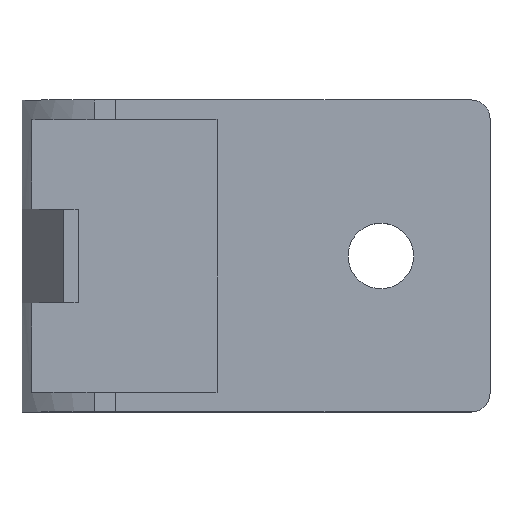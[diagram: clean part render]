
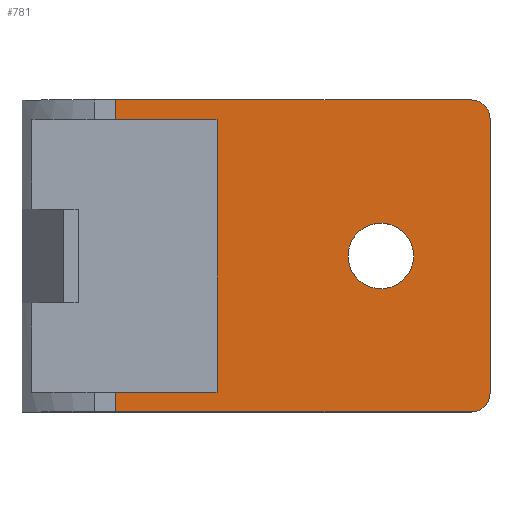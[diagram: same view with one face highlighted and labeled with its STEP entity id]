
A CAD part, top view. The second image highlights one B-rep face of the part: STEP entity #781.
In plain terms, the highlighted planar face has unit normal (0, 0, 1).
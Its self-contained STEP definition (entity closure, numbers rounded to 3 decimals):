
#12 = LINE ( 'NONE', #45, #337 ) ;
#28 = EDGE_CURVE ( 'NONE', #457, #456, #148, .T. ) ;
#45 = CARTESIAN_POINT ( 'NONE',  ( -17., 10., 0. ) ) ;
#77 = DIRECTION ( 'NONE',  ( -1., 0., 0. ) ) ;
#110 = CARTESIAN_POINT ( 'NONE',  ( -23., 8.75, 0. ) ) ;
#133 = EDGE_CURVE ( 'NONE', #467, #475, #12, .T. ) ;
#148 = LINE ( 'NONE', #110, #151 ) ;
#151 = VECTOR ( 'NONE', #77, 1000. ) ;
#204 = AXIS2_PLACEMENT_3D ( 'NONE', #367, #376, #366 ) ;
#205 = AXIS2_PLACEMENT_3D ( 'NONE', #369, #223, #222 ) ;
#207 = EDGE_CURVE ( 'NONE', #463, #469, #803, .T. ) ;
#211 = EDGE_CURVE ( 'NONE', #472, #465, #807, .T. ) ;
#222 = DIRECTION ( 'NONE',  ( -1., 0., 0. ) ) ;
#223 = DIRECTION ( 'NONE',  ( 0., 0., 1. ) ) ;
#226 = EDGE_CURVE ( 'NONE', #459, #479, #812, .T. ) ;
#227 = EDGE_CURVE ( 'NONE', #469, #472, #814, .T. ) ;
#231 = EDGE_CURVE ( 'NONE', #479, #459, #808, .T. ) ;
#237 = EDGE_CURVE ( 'NONE', #465, #456, #830, .T. ) ;
#298 = CARTESIAN_POINT ( 'NONE',  ( -23., 10., 0. ) ) ;
#307 = DIRECTION ( 'NONE',  ( 0., -1., 0. ) ) ;
#310 = DIRECTION ( 'NONE',  ( 0., 1., 0. ) ) ;
#312 = CARTESIAN_POINT ( 'NONE',  ( 7., -10., 0. ) ) ;
#313 = DIRECTION ( 'NONE',  ( -1., 0., 0. ) ) ;
#337 = VECTOR ( 'NONE', #307, 1000. ) ;
#338 = EDGE_CURVE ( 'NONE', #467, #464, #824, .T. ) ;
#350 = EDGE_CURVE ( 'NONE', #475, #478, #856, .T. ) ;
#356 = EDGE_CURVE ( 'NONE', #478, #463, #867, .T. ) ;
#357 = EDGE_CURVE ( 'NONE', #464, #457, #869, .T. ) ;
#366 = DIRECTION ( 'NONE',  ( 1., 0., 0. ) ) ;
#367 = CARTESIAN_POINT ( 'NONE',  ( 0., 0., 0. ) ) ;
#369 = CARTESIAN_POINT ( 'NONE',  ( 5.8, 8.8, 0. ) ) ;
#376 = DIRECTION ( 'NONE',  ( 0., 0., 1. ) ) ;
#381 = ORIENTED_EDGE ( 'NONE', *, *, #211, .T. ) ;
#382 = ORIENTED_EDGE ( 'NONE', *, *, #133, .T. ) ;
#400 = ORIENTED_EDGE ( 'NONE', *, *, #357, .F. ) ;
#406 = ORIENTED_EDGE ( 'NONE', *, *, #226, .F. ) ;
#412 = ORIENTED_EDGE ( 'NONE', *, *, #237, .T. ) ;
#423 = ORIENTED_EDGE ( 'NONE', *, *, #356, .T. ) ;
#429 = ORIENTED_EDGE ( 'NONE', *, *, #350, .T. ) ;
#434 = EDGE_LOOP ( 'NONE', ( #444, #439, #381, #412, #448, #400, #501, #382, #429, #423 ) ) ;
#439 = ORIENTED_EDGE ( 'NONE', *, *, #227, .T. ) ;
#444 = ORIENTED_EDGE ( 'NONE', *, *, #207, .T. ) ;
#448 = ORIENTED_EDGE ( 'NONE', *, *, #28, .F. ) ;
#456 = VERTEX_POINT ( 'NONE', #620 ) ;
#457 = VERTEX_POINT ( 'NONE', #630 ) ;
#459 = VERTEX_POINT ( 'NONE', #624 ) ;
#463 = VERTEX_POINT ( 'NONE', #627 ) ;
#464 = VERTEX_POINT ( 'NONE', #634 ) ;
#465 = VERTEX_POINT ( 'NONE', #635 ) ;
#467 = VERTEX_POINT ( 'NONE', #637 ) ;
#469 = VERTEX_POINT ( 'NONE', #639 ) ;
#472 = VERTEX_POINT ( 'NONE', #642 ) ;
#475 = VERTEX_POINT ( 'NONE', #645 ) ;
#478 = VERTEX_POINT ( 'NONE', #648 ) ;
#479 = VERTEX_POINT ( 'NONE', #649 ) ;
#501 = ORIENTED_EDGE ( 'NONE', *, *, #338, .F. ) ;
#507 = ORIENTED_EDGE ( 'NONE', *, *, #231, .F. ) ;
#515 = EDGE_LOOP ( 'NONE', ( #406, #507 ) ) ;
#529 = AXIS2_PLACEMENT_3D ( 'NONE', #533, #534, #535 ) ;
#531 = CARTESIAN_POINT ( 'NONE',  ( -10.5, -8.75, 0. ) ) ;
#533 = CARTESIAN_POINT ( 'NONE',  ( 0., 0., 0. ) ) ;
#534 = DIRECTION ( 'NONE',  ( 0., 0., 1. ) ) ;
#535 = DIRECTION ( 'NONE',  ( 1., 0., 0. ) ) ;
#545 = CARTESIAN_POINT ( 'NONE',  ( -17., 10., 0. ) ) ;
#546 = DIRECTION ( 'NONE',  ( 0., -1., 0. ) ) ;
#549 = DIRECTION ( 'NONE',  ( 1., 0., 0. ) ) ;
#575 = CARTESIAN_POINT ( 'NONE',  ( -23., -10., 0. ) ) ;
#576 = DIRECTION ( 'NONE',  ( 1., 0., 0. ) ) ;
#581 = CARTESIAN_POINT ( 'NONE',  ( -10.5, 8.75, 0. ) ) ;
#582 = DIRECTION ( 'NONE',  ( 0., 1., 0. ) ) ;
#589 = CARTESIAN_POINT ( 'NONE',  ( 5.8, -8.8, 0. ) ) ;
#590 = DIRECTION ( 'NONE',  ( 0., 0., 1. ) ) ;
#591 = DIRECTION ( 'NONE',  ( -1., 0., 0. ) ) ;
#620 = CARTESIAN_POINT ( 'NONE',  ( -17., 8.75, 0. ) ) ;
#624 = CARTESIAN_POINT ( 'NONE',  ( 2.1, 0., 0. ) ) ;
#627 = CARTESIAN_POINT ( 'NONE',  ( 7., -8.8, 0. ) ) ;
#630 = CARTESIAN_POINT ( 'NONE',  ( -10.5, 8.75, 0. ) ) ;
#634 = CARTESIAN_POINT ( 'NONE',  ( -10.5, -8.75, 0. ) ) ;
#635 = CARTESIAN_POINT ( 'NONE',  ( -17., 10., 0. ) ) ;
#637 = CARTESIAN_POINT ( 'NONE',  ( -17., -8.75, 0. ) ) ;
#639 = CARTESIAN_POINT ( 'NONE',  ( 7., 8.8, 0. ) ) ;
#642 = CARTESIAN_POINT ( 'NONE',  ( 5.8, 10., 0. ) ) ;
#645 = CARTESIAN_POINT ( 'NONE',  ( -17., -10., 0. ) ) ;
#648 = CARTESIAN_POINT ( 'NONE',  ( 5.8, -10., 0. ) ) ;
#649 = CARTESIAN_POINT ( 'NONE',  ( -2.1, 0., 0. ) ) ;
#697 = DIRECTION ( 'NONE',  ( 0., 0., -1. ) ) ;
#698 = CARTESIAN_POINT ( 'NONE',  ( 0., 0., 0. ) ) ;
#700 = PLANE ( 'NONE',  #935 ) ;
#702 = DIRECTION ( 'NONE',  ( -1., 0., 0. ) ) ;
#781 = ADVANCED_FACE ( 'NONE', ( #889, #895 ), #700, .F. ) ;
#803 = LINE ( 'NONE', #312, #804 ) ;
#804 = VECTOR ( 'NONE', #310, 1000. ) ;
#807 = LINE ( 'NONE', #298, #811 ) ;
#808 = CIRCLE ( 'NONE', #529, 2.1 ) ;
#811 = VECTOR ( 'NONE', #313, 1000. ) ;
#812 = CIRCLE ( 'NONE', #204, 2.1 ) ;
#814 = CIRCLE ( 'NONE', #205, 1.2 ) ;
#824 = LINE ( 'NONE', #531, #837 ) ;
#830 = LINE ( 'NONE', #545, #833 ) ;
#833 = VECTOR ( 'NONE', #546, 1000. ) ;
#837 = VECTOR ( 'NONE', #549, 1000. ) ;
#856 = LINE ( 'NONE', #575, #859 ) ;
#859 = VECTOR ( 'NONE', #576, 1000. ) ;
#867 = CIRCLE ( 'NONE', #917, 1.2 ) ;
#869 = LINE ( 'NONE', #581, #871 ) ;
#871 = VECTOR ( 'NONE', #582, 1000. ) ;
#889 = FACE_BOUND ( 'NONE', #515, .T. ) ;
#895 = FACE_OUTER_BOUND ( 'NONE', #434, .T. ) ;
#917 = AXIS2_PLACEMENT_3D ( 'NONE', #589, #590, #591 ) ;
#935 = AXIS2_PLACEMENT_3D ( 'NONE', #698, #697, #702 ) ;
